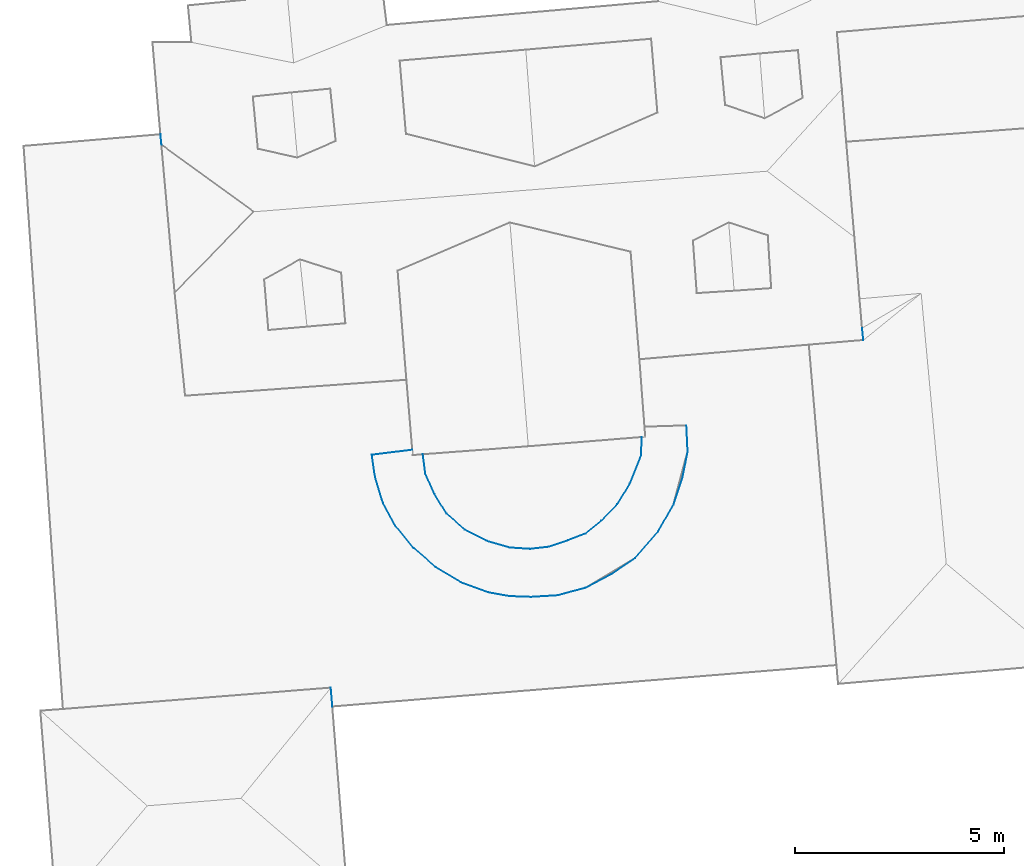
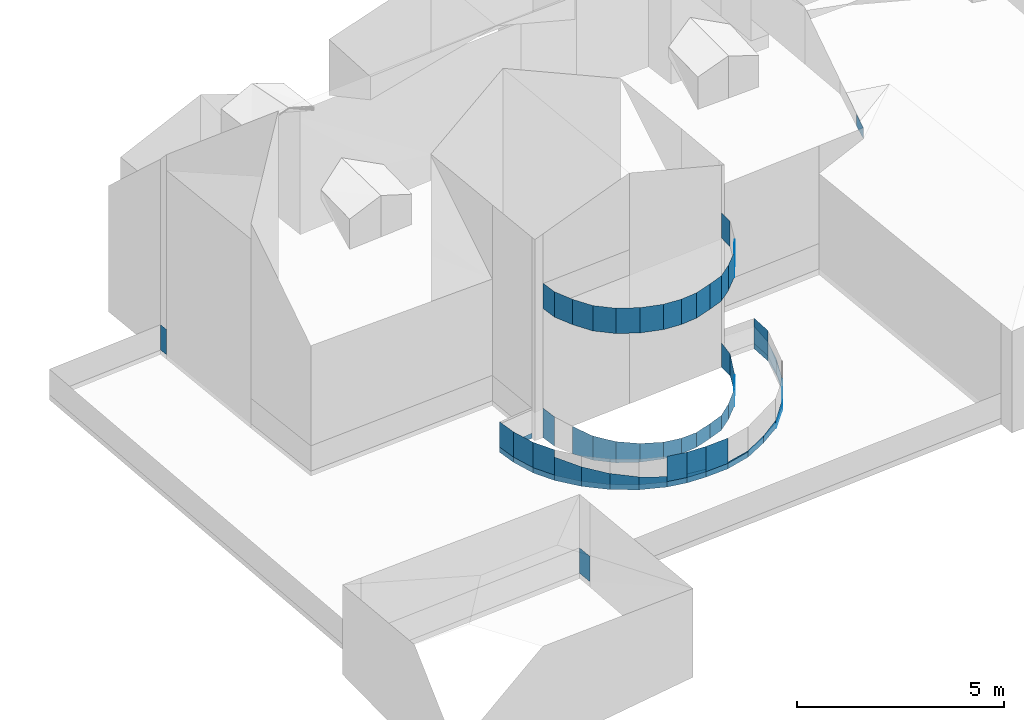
# Not in any storey, part 47 of 57: 93 walls.
"""IFC2X3 building model written with IfcOpenShell, lengths in metres."""

import ifcopenshell
import ifcopenshell.guid

model = None  # the IFC model being written
_history = None  # IfcOwnerHistory: only IFC2X3 demands one
_inside = {}  # id of a spatial element -> (the spatial element, [elements in it])
_under = {}  # id of a project, library or spatial element -> (it, [spatial elements below it])
_declared = {}  # id of a project -> (the project, [libraries it declares])
_typed = {}  # id of a type object -> (the type object, [elements of that type])
_made_of = {}  # id of a material, layer set ... -> (it, [elements and type objects made of it])


def new_model(schema):
    """Start an empty IFC model of exactly this schema.

    Asked for "IFC4X3", IfcOpenShell would pick the latest addendum, in which some entities
    have other attributes; the version numbers below select the first issue.
    IFC2X3 requires an IfcOwnerHistory on every rooted entity: one is made here for all.
    """
    global model, _history
    if schema == "IFC4X3":
        model = ifcopenshell.file(schema_version=(4, 3, 0, 0))
    else:
        model = ifcopenshell.file(schema=schema)
    _inside.clear()
    _under.clear()
    _declared.clear()
    _typed.clear()
    _made_of.clear()
    _history = None
    if model.schema == "IFC2X3":
        org = make("IfcOrganization", Name="unknown")
        user = make(
            "IfcPersonAndOrganization",
            ThePerson=make("IfcPerson", FamilyName="unknown"),
            TheOrganization=org,
        )
        app = make(
            "IfcApplication",
            ApplicationDeveloper=org,
            Version="unknown",
            ApplicationFullName="unknown",
            ApplicationIdentifier="unknown",
        )
        _history = make(
            "IfcOwnerHistory",
            OwningUser=user,
            OwningApplication=app,
            ChangeAction="ADDED",
            CreationDate=0,
        )
    return model


def make(cls, **values):
    """One entity of the class cls with the attributes given. An attribute that is None is left unset."""
    return model.create_entity(
        cls, **{name: value for name, value in values.items() if value is not None}
    )


def entity(cls, *values):
    """Any entity or typed value of the class cls, its attributes in the order of the schema. None: left unset."""
    e = model.create_entity(cls)
    for i, value in enumerate(values):
        if value is not None:
            e[i] = value
    return e


def rooted(cls, **values):
    """An entity with a GlobalId (a new one), such as an element, a storey or a relation."""
    return make(cls, GlobalId=ifcopenshell.guid.new(), OwnerHistory=_history, **values)


def si_unit(unit_type, name, prefix=None):
    """IfcSIUnit, for example si_unit("LENGTHUNIT", "METRE", prefix="MILLI")."""
    return make("IfcSIUnit", UnitType=unit_type, Prefix=prefix, Name=name)


def converted_unit(unit_type, name, factor, base, dimensions=None, offset=None):
    """IfcConversionBasedUnit, such as the inch: factor (a typed value) times the base unit."""
    return make(
        "IfcConversionBasedUnit"
        if offset is None
        else "IfcConversionBasedUnitWithOffset",
        ConversionOffset=offset,
        Dimensions=None
        if dimensions is None
        else entity("IfcDimensionalExponents", *dimensions),
        UnitType=unit_type,
        Name=name,
        ConversionFactor=make(
            "IfcMeasureWithUnit", ValueComponent=factor, UnitComponent=base
        ),
    )


def assignment(units):
    """IfcUnitAssignment: the units of a project."""
    return None if units is None else make("IfcUnitAssignment", Units=units)


def point(xyz):
    """IfcCartesianPoint."""
    return None if xyz is None else make("IfcCartesianPoint", Coordinates=xyz)


def direction(xyz):
    """IfcDirection."""
    return None if xyz is None else make("IfcDirection", DirectionRatios=xyz)


def frame(location, z_axis=None, x_axis=None):
    """IfcAxis2Placement3D, a coordinate frame: its origin and axes. An axis left out is left unset."""
    return make(
        "IfcAxis2Placement3D",
        Location=point(location),
        Axis=direction(z_axis),
        RefDirection=direction(x_axis),
    )


def origin():
    """The frame at (0, 0, 0) with its axes left unset."""
    return frame((0.0, 0.0, 0.0))


def place(relative_to, where):
    """IfcLocalPlacement: puts the frame where relative to a parent placement (None: the world)."""
    return make(
        "IfcLocalPlacement", PlacementRelTo=relative_to, RelativePlacement=where
    )


def context(
    kind, dimensions, precision=None, world=None, true_north=None, identifier=None
):
    """IfcGeometricRepresentationContext, for example the 3D "Model" context."""
    return make(
        "IfcGeometricRepresentationContext",
        ContextIdentifier=identifier,
        ContextType=kind,
        CoordinateSpaceDimension=dimensions,
        Precision=precision,
        WorldCoordinateSystem=world,
        TrueNorth=true_north,
    )


def subcontext(parent, identifier, kind, view, scale=None):
    """IfcGeometricRepresentationSubContext, for example "Body" below "Model"."""
    return make(
        "IfcGeometricRepresentationSubContext",
        ContextIdentifier=identifier,
        ContextType=kind,
        ParentContext=parent,
        TargetScale=scale,
        TargetView=view,
    )


def project(units=None, contexts=None):
    """IfcProject with its units and contexts."""
    return rooted(
        "IfcProject",
        Name="project",
        RepresentationContexts=contexts,
        UnitsInContext=assignment(units),
    )


def spatial(cls, under=None, at=None, **own):
    """A site, building, storey or space (cls), placed at a placement, below another one or the project."""
    s = rooted(cls, ObjectPlacement=at, **own)
    if under is not None:
        _under.setdefault(under.id(), (under, []))[1].append(s)
    return s


def faces_of(points, faces, orient=None, outer=None):
    """IfcFace entities. A face is a list of loops; a loop is a list of indices into points, from 0.

    orient and outer hold one flag for each loop. By default every Orientation is true, the
    first loop of a face is its IfcFaceOuterBound and the others are IfcFaceBound.
    """
    made = []
    for i, loops in enumerate(faces):
        bounds = []
        for j, loop in enumerate(loops):
            is_outer = j == 0 if outer is None else outer[i][j]
            bounds.append(
                make(
                    "IfcFaceOuterBound" if is_outer else "IfcFaceBound",
                    Bound=make("IfcPolyLoop", Polygon=[points[k] for k in loop]),
                    Orientation=True if orient is None else orient[i][j],
                )
            )
        made.append(make("IfcFace", Bounds=bounds))
    return made


def face_set(faces, orient=None, outer=None):
    """The faces of one IfcConnectedFaceSet. surface_model builds it on its shared points."""
    return ("IfcConnectedFaceSet", faces, orient, outer)


def surface_model(cls, points, shells):
    """IfcFaceBasedSurfaceModel or IfcShellBasedSurfaceModel (cls): surfaces that need not close."""
    shared = [point(p) for p in points]
    made = [make(c, CfsFaces=faces_of(shared, fs, o, b)) for c, fs, o, b in shells]
    if cls == "IfcFaceBasedSurfaceModel":
        return make(cls, FbsmFaces=made)
    return make(cls, SbsmBoundary=made)


def shape(context_of_items, identifier, shape_type, items):
    """IfcShapeRepresentation: the items that make up one representation, for example the "Body"."""
    return make(
        "IfcShapeRepresentation",
        ContextOfItems=context_of_items,
        RepresentationIdentifier=identifier,
        RepresentationType=shape_type,
        Items=items,
    )


def made_of(thing, what):
    """Note that an element or type object is made of a material, layer set ...; save() writes the relation."""
    if what is not None:
        _made_of.setdefault(what.id(), (what, []))[1].append(thing)
    return thing


def element(
    cls,
    number,
    at=None,
    inside=None,
    cuts=None,
    type_object=None,
    material=None,
    context=None,
    identifier="Body",
    shape_type=None,
    held_by="IfcProductDefinitionShape",
    body=None,
    shapes=None,
    **own,
):
    """One element of the class cls, such as IfcWall. Its Tag is "e" and its number.

    at: its placement. inside: the storey or other place that contains it. cuts: it is an
    opening in that element (IfcRelVoidsElement). A single representation is given by context,
    identifier, shape_type and body (its items); several are given by shapes. held_by: the class
    of the entity that holds the representations. save() writes the other relations.
    """
    e = rooted(cls, Tag="e%d" % number, ObjectPlacement=at, **own)
    if body is not None:
        shapes = [shape(context, identifier, shape_type, body)]
    if shapes is not None:
        e.Representation = make(held_by, Representations=shapes)
    if inside is not None:
        _inside.setdefault(inside.id(), (inside, []))[1].append(e)
    if cuts is not None:
        rooted(
            "IfcRelVoidsElement", RelatingBuildingElement=cuts, RelatedOpeningElement=e
        )
    if type_object is not None:
        _typed.setdefault(type_object.id(), (type_object, []))[1].append(e)
    return made_of(e, material)


def aggregate(whole, parts):
    """IfcRelAggregates: a whole, such as a stair, and the parts it consists of."""
    return rooted("IfcRelAggregates", RelatingObject=whole, RelatedObjects=parts)


def save(model, path):
    """Write the relations noted so far, then the file.

    IfcRelAggregates (storeys below a building ...), IfcRelContainedInSpatialStructure (elements
    in a storey), IfcRelDefinesByType, IfcRelAssociatesMaterial and IfcRelDeclares: one each for
    every whole, place, type object, material and project.
    """
    for whole, parts in _under.values():
        aggregate(whole, parts)
    for where, things in _inside.values():
        rooted(
            "IfcRelContainedInSpatialStructure",
            RelatedElements=things,
            RelatingStructure=where,
        )
    for kind, things in _typed.values():
        rooted("IfcRelDefinesByType", RelatedObjects=things, RelatingType=kind)
    for what, things in _made_of.values():
        rooted("IfcRelAssociatesMaterial", RelatedObjects=things, RelatingMaterial=what)
    for by, libraries in _declared.values():
        rooted("IfcRelDeclares", RelatingContext=by, RelatedDefinitions=libraries)
    model.write(path)


model = new_model("IFC2X3")

# Units and contexts
model_context = context("Model", 3, precision=1e-05, world=origin())
body_context = subcontext(model_context, "Body", "Model", "MODEL_VIEW")
ifc_project = project(units=[converted_unit("PLANEANGLEUNIT", "DEGREE", entity("IfcRatioMeasure", 0.0174532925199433), si_unit("PLANEANGLEUNIT", "RADIAN"), dimensions=[0, 0, 0, 0, 0, 0, 0]), si_unit("AREAUNIT", "SQUARE_METRE"), si_unit("LENGTHUNIT", "METRE")], contexts=[model_context])

# Site, building
site_placement = place(None, origin())
site = spatial("IfcSite", under=ifc_project, at=site_placement, Name="_site", CompositionType="ELEMENT")
building_1_placement = place(site_placement, origin())
building_1 = spatial("IfcBuilding", under=site, at=building_1_placement, Name="_building", CompositionType="ELEMENT")

# Walls
for number, where, name in (
    (1, (0.0, 0.0, 0.0), "Wall"),
    (2, (0.0, 0.0, 0.0), "Wall"),
):
    element("IfcWall", number, at=place(building_1_placement, frame(where)), inside=building_1, Name=name, context=body_context, shape_type="SurfaceModel", body=[
        surface_model("IfcFaceBasedSurfaceModel", [(233.188, 86.01, 226.165), (233.15, 86.461, 226.165), (233.15, 86.461, 226.915), (233.188, 86.01, 226.915)], [face_set([[[0, 1, 2, 3]]])]),
    ])

# Building
building_2_placement = place(site_placement, origin())
building_2 = spatial("IfcBuilding", under=site, at=building_2_placement, Name="_building", CompositionType="ELEMENT")

# Walls
wall_1_placement = place(building_2_placement, origin())
element("IfcWall", 3, at=wall_1_placement, inside=building_2, Name="Wall", context=body_context, shape_type="SurfaceModel", body=[
    surface_model("IfcFaceBasedSurfaceModel", [(235.41, 91.58, 229.832), (235.35, 92.039, 229.832), (235.35, 92.039, 230.582), (235.41, 91.58, 230.582)], [face_set([[[0, 1, 2, 3]]])]),
])
wall_2_placement = place(building_2_placement, origin())
element("IfcWall", 4, at=wall_2_placement, inside=building_2, Name="Wall", context=body_context, shape_type="SurfaceModel", body=[
    surface_model("IfcFaceBasedSurfaceModel", [(235.63, 91.09, 229.832), (235.41, 91.58, 229.832), (235.41, 91.58, 230.582), (235.63, 91.09, 230.582)], [face_set([[[0, 1, 2, 3]]])]),
])
wall_3_placement = place(building_2_placement, origin())
element("IfcWall", 5, at=wall_3_placement, inside=building_2, Name="Wall", context=body_context, shape_type="SurfaceModel", body=[
    surface_model("IfcFaceBasedSurfaceModel", [(235.92, 90.619, 229.832), (235.63, 91.09, 229.832), (235.63, 91.09, 230.582), (235.92, 90.619, 230.582)], [face_set([[[0, 1, 2, 3]]])]),
])
wall_4_placement = place(building_2_placement, origin())
element("IfcWall", 6, at=wall_4_placement, inside=building_2, Name="Wall", context=body_context, shape_type="SurfaceModel", body=[
    surface_model("IfcFaceBasedSurfaceModel", [(236.35, 90.24, 229.832), (235.92, 90.619, 229.832), (235.92, 90.619, 230.582), (236.35, 90.24, 230.582)], [face_set([[[0, 1, 2, 3]]])]),
])
wall_5_placement = place(building_2_placement, origin())
element("IfcWall", 7, at=wall_5_placement, inside=building_2, Name="Wall", context=body_context, shape_type="SurfaceModel", body=[
    surface_model("IfcFaceBasedSurfaceModel", [(236.87, 89.971, 229.832), (236.35, 90.24, 229.832), (236.35, 90.24, 230.582), (236.87, 89.971, 230.582)], [face_set([[[0, 1, 2, 3]]])]),
])
wall_6_placement = place(building_2_placement, origin())
element("IfcWall", 8, at=wall_6_placement, inside=building_2, Name="Wall", context=body_context, shape_type="SurfaceModel", body=[
    surface_model("IfcFaceBasedSurfaceModel", [(237.43, 89.811, 229.832), (236.87, 89.971, 229.832), (236.87, 89.971, 230.582), (237.43, 89.811, 230.582)], [face_set([[[0, 1, 2, 3]]])]),
])
wall_7_placement = place(building_2_placement, origin())
element("IfcWall", 9, at=wall_7_placement, inside=building_2, Name="Wall", context=body_context, shape_type="SurfaceModel", body=[
    surface_model("IfcFaceBasedSurfaceModel", [(237.91, 89.779, 229.832), (237.43, 89.811, 229.832), (237.43, 89.811, 230.582), (237.91, 89.779, 230.582)], [face_set([[[0, 1, 2, 3]]])]),
])
wall_8_placement = place(building_2_placement, origin())
element("IfcWall", 10, at=wall_8_placement, inside=building_2, Name="Wall", context=body_context, shape_type="SurfaceModel", body=[
    surface_model("IfcFaceBasedSurfaceModel", [(238.36, 89.83, 229.832), (237.91, 89.779, 229.832), (237.91, 89.779, 230.582), (238.36, 89.83, 230.582)], [face_set([[[0, 1, 2, 3]]])]),
])
wall_9_placement = place(building_2_placement, origin())
element("IfcWall", 11, at=wall_9_placement, inside=building_2, Name="Wall", context=body_context, shape_type="SurfaceModel", body=[
    surface_model("IfcFaceBasedSurfaceModel", [(238.83, 89.99, 229.832), (238.36, 89.83, 229.832), (238.36, 89.83, 230.582), (238.83, 89.99, 230.582)], [face_set([[[0, 1, 2, 3]]])]),
])
wall_10_placement = place(building_2_placement, origin())
element("IfcWall", 12, at=wall_10_placement, inside=building_2, Name="Wall", context=body_context, shape_type="SurfaceModel", body=[
    surface_model("IfcFaceBasedSurfaceModel", [(239.24, 90.15, 229.832), (238.83, 89.99, 229.832), (238.83, 89.99, 230.582), (239.24, 90.15, 230.582)], [face_set([[[0, 1, 2, 3]]])]),
])
wall_11_placement = place(building_2_placement, origin())
element("IfcWall", 13, at=wall_11_placement, inside=building_2, Name="Wall", context=body_context, shape_type="SurfaceModel", body=[
    surface_model("IfcFaceBasedSurfaceModel", [(239.61, 90.449, 229.832), (239.24, 90.15, 229.832), (239.24, 90.15, 230.582), (239.61, 90.449, 230.582)], [face_set([[[0, 1, 2, 3]]])]),
])
wall_12_placement = place(building_2_placement, origin())
element("IfcWall", 14, at=wall_12_placement, inside=building_2, Name="Wall", context=body_context, shape_type="SurfaceModel", body=[
    surface_model("IfcFaceBasedSurfaceModel", [(240.0, 90.85, 229.832), (239.61, 90.449, 229.832), (239.61, 90.449, 230.582), (240.0, 90.85, 230.582)], [face_set([[[0, 1, 2, 3]]])]),
])
wall_13_placement = place(building_2_placement, origin())
element("IfcWall", 15, at=wall_13_placement, inside=building_2, Name="Wall", context=body_context, shape_type="SurfaceModel", body=[
    surface_model("IfcFaceBasedSurfaceModel", [(240.3, 91.34, 229.832), (240.0, 90.85, 229.832), (240.0, 90.85, 230.582), (240.3, 91.34, 230.582)], [face_set([[[0, 1, 2, 3]]])]),
])
wall_14_placement = place(building_2_placement, origin())
element("IfcWall", 16, at=wall_14_placement, inside=building_2, Name="Wall", context=body_context, shape_type="SurfaceModel", body=[
    surface_model("IfcFaceBasedSurfaceModel", [(240.58, 92.451, 229.832), (240.57, 92.02, 229.832), (240.57, 92.02, 230.582), (240.58, 92.451, 230.582)], [face_set([[[0, 1, 2, 3]]])]),
])
wall_15_placement = place(building_2_placement, origin())
element("IfcWall", 17, at=wall_15_placement, inside=building_2, Name="Wall", context=body_context, shape_type="SurfaceModel", body=[
    surface_model("IfcFaceBasedSurfaceModel", [(235.41, 91.58, 229.832), (235.35, 92.039, 229.832), (235.35, 92.039, 230.582), (235.41, 91.58, 230.582)], [face_set([[[0, 1, 2, 3]]])]),
])
wall_16_placement = place(building_2_placement, origin())
element("IfcWall", 18, at=wall_16_placement, inside=building_2, Name="Wall", context=body_context, shape_type="SurfaceModel", body=[
    surface_model("IfcFaceBasedSurfaceModel", [(235.63, 91.09, 229.832), (235.41, 91.58, 229.832), (235.41, 91.58, 230.582), (235.63, 91.09, 230.582)], [face_set([[[0, 1, 2, 3]]])]),
])
wall_17_placement = place(building_2_placement, origin())
element("IfcWall", 19, at=wall_17_placement, inside=building_2, Name="Wall", context=body_context, shape_type="SurfaceModel", body=[
    surface_model("IfcFaceBasedSurfaceModel", [(235.92, 90.619, 229.832), (235.63, 91.09, 229.832), (235.63, 91.09, 230.582), (235.92, 90.619, 230.582)], [face_set([[[0, 1, 2, 3]]])]),
])
wall_18_placement = place(building_2_placement, origin())
element("IfcWall", 20, at=wall_18_placement, inside=building_2, Name="Wall", context=body_context, shape_type="SurfaceModel", body=[
    surface_model("IfcFaceBasedSurfaceModel", [(236.35, 90.24, 229.832), (235.92, 90.619, 229.832), (235.92, 90.619, 230.582), (236.35, 90.24, 230.582)], [face_set([[[0, 1, 2, 3]]])]),
])
wall_19_placement = place(building_2_placement, origin())
element("IfcWall", 21, at=wall_19_placement, inside=building_2, Name="Wall", context=body_context, shape_type="SurfaceModel", body=[
    surface_model("IfcFaceBasedSurfaceModel", [(236.87, 89.971, 229.832), (236.35, 90.24, 229.832), (236.35, 90.24, 230.582), (236.87, 89.971, 230.582)], [face_set([[[0, 1, 2, 3]]])]),
])
wall_20_placement = place(building_2_placement, origin())
element("IfcWall", 22, at=wall_20_placement, inside=building_2, Name="Wall", context=body_context, shape_type="SurfaceModel", body=[
    surface_model("IfcFaceBasedSurfaceModel", [(237.43, 89.811, 229.832), (236.87, 89.971, 229.832), (236.87, 89.971, 230.582), (237.43, 89.811, 230.582)], [face_set([[[0, 1, 2, 3]]])]),
])
wall_21_placement = place(building_2_placement, origin())
element("IfcWall", 23, at=wall_21_placement, inside=building_2, Name="Wall", context=body_context, shape_type="SurfaceModel", body=[
    surface_model("IfcFaceBasedSurfaceModel", [(237.91, 89.779, 229.832), (237.43, 89.811, 229.832), (237.43, 89.811, 230.582), (237.91, 89.779, 230.582)], [face_set([[[0, 1, 2, 3]]])]),
])
wall_22_placement = place(building_2_placement, origin())
element("IfcWall", 24, at=wall_22_placement, inside=building_2, Name="Wall", context=body_context, shape_type="SurfaceModel", body=[
    surface_model("IfcFaceBasedSurfaceModel", [(238.36, 89.83, 229.832), (237.91, 89.779, 229.832), (237.91, 89.779, 230.582), (238.36, 89.83, 230.582)], [face_set([[[0, 1, 2, 3]]])]),
])
wall_23_placement = place(building_2_placement, origin())
element("IfcWall", 25, at=wall_23_placement, inside=building_2, Name="Wall", context=body_context, shape_type="SurfaceModel", body=[
    surface_model("IfcFaceBasedSurfaceModel", [(238.83, 89.99, 229.832), (238.36, 89.83, 229.832), (238.36, 89.83, 230.582), (238.83, 89.99, 230.582)], [face_set([[[0, 1, 2, 3]]])]),
])
wall_24_placement = place(building_2_placement, origin())
element("IfcWall", 26, at=wall_24_placement, inside=building_2, Name="Wall", context=body_context, shape_type="SurfaceModel", body=[
    surface_model("IfcFaceBasedSurfaceModel", [(239.24, 90.15, 229.832), (238.83, 89.99, 229.832), (238.83, 89.99, 230.582), (239.24, 90.15, 230.582)], [face_set([[[0, 1, 2, 3]]])]),
])
wall_25_placement = place(building_2_placement, origin())
element("IfcWall", 27, at=wall_25_placement, inside=building_2, Name="Wall", context=body_context, shape_type="SurfaceModel", body=[
    surface_model("IfcFaceBasedSurfaceModel", [(239.61, 90.449, 229.832), (239.24, 90.15, 229.832), (239.24, 90.15, 230.582), (239.61, 90.449, 230.582)], [face_set([[[0, 1, 2, 3]]])]),
])
wall_26_placement = place(building_2_placement, origin())
element("IfcWall", 28, at=wall_26_placement, inside=building_2, Name="Wall", context=body_context, shape_type="SurfaceModel", body=[
    surface_model("IfcFaceBasedSurfaceModel", [(240.0, 90.85, 229.832), (239.61, 90.449, 229.832), (239.61, 90.449, 230.582), (240.0, 90.85, 230.582)], [face_set([[[0, 1, 2, 3]]])]),
])
wall_27_placement = place(building_2_placement, origin())
element("IfcWall", 29, at=wall_27_placement, inside=building_2, Name="Wall", context=body_context, shape_type="SurfaceModel", body=[
    surface_model("IfcFaceBasedSurfaceModel", [(240.3, 91.34, 229.832), (240.0, 90.85, 229.832), (240.0, 90.85, 230.582), (240.3, 91.34, 230.582)], [face_set([[[0, 1, 2, 3]]])]),
])
wall_28_placement = place(building_2_placement, origin())
element("IfcWall", 30, at=wall_28_placement, inside=building_2, Name="Wall", context=body_context, shape_type="SurfaceModel", body=[
    surface_model("IfcFaceBasedSurfaceModel", [(240.58, 92.451, 229.832), (240.57, 92.02, 229.832), (240.57, 92.02, 230.582), (240.58, 92.451, 230.582)], [face_set([[[0, 1, 2, 3]]])]),
])
wall_29_placement = place(building_2_placement, origin())
element("IfcWall", 31, at=wall_29_placement, inside=building_2, Name="Wall", context=body_context, shape_type="SurfaceModel", body=[
    surface_model("IfcFaceBasedSurfaceModel", [(245.85, 95.061, 230.08), (245.88, 94.77, 229.83), (245.88, 94.77, 229.5), (245.85, 95.061, 229.72)], [face_set([[[0, 1, 2, 3]]])]),
])
wall_30_placement = place(building_2_placement, origin())
element("IfcWall", 32, at=wall_30_placement, inside=building_2, Name="Wall", context=body_context, shape_type="SurfaceModel", body=[
    surface_model("IfcFaceBasedSurfaceModel", [(234.21, 91.49, 226.17), (234.13, 92.029, 226.17), (234.13, 92.029, 226.92), (234.21, 91.49, 226.92)], [face_set([[[0, 1, 2, 3]]])]),
])
wall_31_placement = place(building_2_placement, origin())
element("IfcWall", 33, at=wall_31_placement, inside=building_2, Name="Wall", context=body_context, shape_type="SurfaceModel", body=[
    surface_model("IfcFaceBasedSurfaceModel", [(234.4, 90.869, 226.17), (234.21, 91.49, 226.17), (234.21, 91.49, 226.92), (234.4, 90.869, 226.92)], [face_set([[[0, 1, 2, 3]]])]),
])
wall_32_placement = place(building_2_placement, origin())
element("IfcWall", 34, at=wall_32_placement, inside=building_2, Name="Wall", context=body_context, shape_type="SurfaceModel", body=[
    surface_model("IfcFaceBasedSurfaceModel", [(234.69, 90.34, 226.17), (234.4, 90.869, 226.17), (234.4, 90.869, 226.92), (234.69, 90.34, 226.92)], [face_set([[[0, 1, 2, 3]]])]),
])
wall_33_placement = place(building_2_placement, origin())
element("IfcWall", 35, at=wall_33_placement, inside=building_2, Name="Wall", context=body_context, shape_type="SurfaceModel", body=[
    surface_model("IfcFaceBasedSurfaceModel", [(237.41, 88.65, 226.17), (236.91, 88.74, 226.17), (236.91, 88.74, 226.92), (237.41, 88.65, 226.92)], [face_set([[[0, 1, 2, 3]]])]),
])
wall_34_placement = place(building_2_placement, origin())
element("IfcWall", 36, at=wall_34_placement, inside=building_2, Name="Wall", context=body_context, shape_type="SurfaceModel", body=[
    surface_model("IfcFaceBasedSurfaceModel", [(237.94, 88.631, 226.17), (237.41, 88.65, 226.17), (237.41, 88.65, 226.92), (237.94, 88.631, 226.92)], [face_set([[[0, 1, 2, 3]]])]),
])
wall_35_placement = place(building_2_placement, origin())
element("IfcWall", 37, at=wall_35_placement, inside=building_2, Name="Wall", context=body_context, shape_type="SurfaceModel", body=[
    surface_model("IfcFaceBasedSurfaceModel", [(238.57, 88.67, 226.17), (237.94, 88.631, 226.17), (237.94, 88.631, 226.92), (238.57, 88.67, 226.92)], [face_set([[[0, 1, 2, 3]]])]),
])
wall_36_placement = place(building_2_placement, origin())
element("IfcWall", 38, at=wall_36_placement, inside=building_2, Name="Wall", context=body_context, shape_type="SurfaceModel", body=[
    surface_model("IfcFaceBasedSurfaceModel", [(241.65, 92.73, 226.17), (241.68, 92.109, 226.17), (241.68, 92.109, 226.92), (241.65, 92.73, 226.92)], [face_set([[[0, 1, 2, 3]]])]),
])
wall_37_placement = place(building_2_placement, origin())
element("IfcWall", 39, at=wall_37_placement, inside=building_2, Name="Wall", context=body_context, shape_type="SurfaceModel", body=[
    surface_model("IfcFaceBasedSurfaceModel", [(234.21, 91.49, 226.17), (234.13, 92.029, 226.17), (234.13, 92.029, 226.92), (234.21, 91.49, 226.92)], [face_set([[[0, 1, 2, 3]]])]),
])
wall_38_placement = place(building_2_placement, origin())
element("IfcWall", 40, at=wall_38_placement, inside=building_2, Name="Wall", context=body_context, shape_type="SurfaceModel", body=[
    surface_model("IfcFaceBasedSurfaceModel", [(234.4, 90.869, 226.17), (234.21, 91.49, 226.17), (234.21, 91.49, 226.92), (234.4, 90.869, 226.92)], [face_set([[[0, 1, 2, 3]]])]),
])
wall_39_placement = place(building_2_placement, origin())
element("IfcWall", 41, at=wall_39_placement, inside=building_2, Name="Wall", context=body_context, shape_type="SurfaceModel", body=[
    surface_model("IfcFaceBasedSurfaceModel", [(234.69, 90.34, 226.17), (234.4, 90.869, 226.17), (234.4, 90.869, 226.92), (234.69, 90.34, 226.92)], [face_set([[[0, 1, 2, 3]]])]),
])
wall_40_placement = place(building_2_placement, origin())
element("IfcWall", 42, at=wall_40_placement, inside=building_2, Name="Wall", context=body_context, shape_type="SurfaceModel", body=[
    surface_model("IfcFaceBasedSurfaceModel", [(237.41, 88.65, 226.17), (236.91, 88.74, 226.17), (236.91, 88.74, 226.92), (237.41, 88.65, 226.92)], [face_set([[[0, 1, 2, 3]]])]),
])
wall_41_placement = place(building_2_placement, origin())
element("IfcWall", 43, at=wall_41_placement, inside=building_2, Name="Wall", context=body_context, shape_type="SurfaceModel", body=[
    surface_model("IfcFaceBasedSurfaceModel", [(237.94, 88.631, 226.17), (237.41, 88.65, 226.17), (237.41, 88.65, 226.92), (237.94, 88.631, 226.92)], [face_set([[[0, 1, 2, 3]]])]),
])
wall_42_placement = place(building_2_placement, origin())
element("IfcWall", 44, at=wall_42_placement, inside=building_2, Name="Wall", context=body_context, shape_type="SurfaceModel", body=[
    surface_model("IfcFaceBasedSurfaceModel", [(238.57, 88.67, 226.17), (237.94, 88.631, 226.17), (237.94, 88.631, 226.92), (238.57, 88.67, 226.92)], [face_set([[[0, 1, 2, 3]]])]),
])
wall_43_placement = place(building_2_placement, origin())
element("IfcWall", 45, at=wall_43_placement, inside=building_2, Name="Wall", context=body_context, shape_type="SurfaceModel", body=[
    surface_model("IfcFaceBasedSurfaceModel", [(241.65, 92.73, 226.17), (241.68, 92.109, 226.17), (241.68, 92.109, 226.92), (241.65, 92.73, 226.92)], [face_set([[[0, 1, 2, 3]]])]),
])
for number, where, name in (
    (46, (0.0, 0.0, 0.0), "Wall"),
    (47, (0.0, 0.0, 0.0), "Wall"),
):
    element("IfcWall", number, at=place(building_2_placement, frame(where)), inside=building_2, Name=name, context=body_context, shape_type="SurfaceModel", body=[
        surface_model("IfcFaceBasedSurfaceModel", [(229.102, 99.438, 226.163), (229.079, 99.689, 226.163), (229.079, 99.689, 226.913), (229.102, 99.438, 226.913)], [face_set([[[0, 1, 2, 3]]])]),
    ])
wall_44_placement = place(building_2_placement, origin())
element("IfcWall", 48, at=wall_44_placement, inside=building_2, Name="Wall", context=body_context, shape_type="SurfaceModel", body=[
    surface_model("IfcFaceBasedSurfaceModel", [(235.35, 92.039, 226.89), (235.41, 91.58, 226.885), (235.41, 91.58, 226.016), (235.35, 92.039, 226.017)], [face_set([[[0, 1, 2, 3]]])]),
])
wall_45_placement = place(building_2_placement, origin())
element("IfcWall", 49, at=wall_45_placement, inside=building_2, Name="Wall", context=body_context, shape_type="SurfaceModel", body=[
    surface_model("IfcFaceBasedSurfaceModel", [(234.21, 91.49, 226.847), (234.13, 92.029, 226.852), (234.13, 92.029, 226.017), (234.21, 91.49, 226.016)], [face_set([[[0, 1, 2, 3]]])]),
])
wall_46_placement = place(building_2_placement, origin())
element("IfcWall", 50, at=wall_46_placement, inside=building_2, Name="Wall", context=body_context, shape_type="SurfaceModel", body=[
    surface_model("IfcFaceBasedSurfaceModel", [(235.63, 91.09, 226.825), (235.92, 90.619, 226.728), (235.92, 90.619, 226.014), (235.63, 91.09, 226.015)], [face_set([[[0, 1, 2, 3]]])]),
])
wall_47_placement = place(building_2_placement, origin())
element("IfcWall", 51, at=wall_47_placement, inside=building_2, Name="Wall", context=body_context, shape_type="SurfaceModel", body=[
    surface_model("IfcFaceBasedSurfaceModel", [(234.69, 90.34, 226.706), (234.4, 90.869, 226.81), (234.4, 90.869, 226.014), (234.69, 90.34, 226.013)], [face_set([[[0, 1, 2, 3]]])]),
])
wall_48_placement = place(building_2_placement, origin())
element("IfcWall", 52, at=wall_48_placement, inside=building_2, Name="Wall", context=body_context, shape_type="SurfaceModel", body=[
    surface_model("IfcFaceBasedSurfaceModel", [(240.57, 92.02, 226.666), (240.58, 92.451, 226.73), (240.58, 92.451, 226.017), (240.57, 92.02, 226.017)], [face_set([[[0, 1, 2, 3]]])]),
])
wall_49_placement = place(building_2_placement, origin())
element("IfcWall", 53, at=wall_49_placement, inside=building_2, Name="Wall", context=body_context, shape_type="SurfaceModel", body=[
    surface_model("IfcFaceBasedSurfaceModel", [(235.92, 90.619, 226.728), (236.35, 90.24, 226.64), (236.35, 90.24, 226.014), (235.92, 90.619, 226.014)], [face_set([[[0, 1, 2, 3]]])]),
])
wall_50_placement = place(building_2_placement, origin())
element("IfcWall", 54, at=wall_50_placement, inside=building_2, Name="Wall", context=body_context, shape_type="SurfaceModel", body=[
    surface_model("IfcFaceBasedSurfaceModel", [(235.13, 89.801, 226.592), (234.69, 90.34, 226.706), (234.69, 90.34, 226.013), (235.13, 89.801, 226.012)], [face_set([[[0, 1, 2, 3]]])]),
])
wall_51_placement = place(building_2_placement, origin())
element("IfcWall", 55, at=wall_51_placement, inside=building_2, Name="Wall", context=body_context, shape_type="SurfaceModel", body=[
    surface_model("IfcFaceBasedSurfaceModel", [(241.65, 92.73, 226.676), (241.68, 92.109, 226.58), (241.68, 92.109, 226.016), (241.65, 92.73, 226.016)], [face_set([[[0, 1, 2, 3]]])]),
])
wall_52_placement = place(building_2_placement, origin())
element("IfcWall", 56, at=wall_52_placement, inside=building_2, Name="Wall", context=body_context, shape_type="SurfaceModel", body=[
    surface_model("IfcFaceBasedSurfaceModel", [(240.3, 91.34, 226.577), (240.57, 92.02, 226.666), (240.57, 92.02, 226.017), (240.3, 91.34, 226.016)], [face_set([[[0, 1, 2, 3]]])]),
])
wall_53_placement = place(building_2_placement, origin())
element("IfcWall", 57, at=wall_53_placement, inside=building_2, Name="Wall", context=body_context, shape_type="SurfaceModel", body=[
    surface_model("IfcFaceBasedSurfaceModel", [(236.35, 90.24, 226.64), (236.87, 89.971, 226.565), (236.87, 89.971, 226.013), (236.35, 90.24, 226.014)], [face_set([[[0, 1, 2, 3]]])]),
])
wall_54_placement = place(building_2_placement, origin())
element("IfcWall", 58, at=wall_54_placement, inside=building_2, Name="Wall", context=body_context, shape_type="SurfaceModel", body=[
    surface_model("IfcFaceBasedSurfaceModel", [(235.66, 89.34, 226.486), (235.13, 89.801, 226.592), (235.13, 89.801, 226.012), (235.66, 89.34, 226.011)], [face_set([[[0, 1, 2, 3]]])]),
])
wall_55_placement = place(building_2_placement, origin())
element("IfcWall", 59, at=wall_55_placement, inside=building_2, Name="Wall", context=body_context, shape_type="SurfaceModel", body=[
    surface_model("IfcFaceBasedSurfaceModel", [(241.68, 92.109, 226.58), (241.56, 91.49, 226.491), (241.56, 91.49, 226.016), (241.68, 92.109, 226.016)], [face_set([[[0, 1, 2, 3]]])]),
])
wall_56_placement = place(building_2_placement, origin())
element("IfcWall", 60, at=wall_56_placement, inside=building_2, Name="Wall", context=body_context, shape_type="SurfaceModel", body=[
    surface_model("IfcFaceBasedSurfaceModel", [(240.0, 90.85, 226.519), (240.3, 91.34, 226.577), (240.3, 91.34, 226.016), (240.0, 90.85, 226.016)], [face_set([[[0, 1, 2, 3]]])]),
])
wall_57_placement = place(building_2_placement, origin())
element("IfcWall", 61, at=wall_57_placement, inside=building_2, Name="Wall", context=body_context, shape_type="SurfaceModel", body=[
    surface_model("IfcFaceBasedSurfaceModel", [(236.87, 89.971, 226.565), (237.43, 89.811, 226.506), (237.43, 89.811, 226.013), (236.87, 89.971, 226.013)], [face_set([[[0, 1, 2, 3]]])]),
])
wall_58_placement = place(building_2_placement, origin())
element("IfcWall", 62, at=wall_58_placement, inside=building_2, Name="Wall", context=body_context, shape_type="SurfaceModel", body=[
    surface_model("IfcFaceBasedSurfaceModel", [(239.61, 90.449, 226.479), (240.0, 90.85, 226.519), (240.0, 90.85, 226.016), (239.61, 90.449, 226.015)], [face_set([[[0, 1, 2, 3]]])]),
])
wall_59_placement = place(building_2_placement, origin())
element("IfcWall", 63, at=wall_59_placement, inside=building_2, Name="Wall", context=body_context, shape_type="SurfaceModel", body=[
    surface_model("IfcFaceBasedSurfaceModel", [(237.43, 89.811, 226.506), (237.91, 89.779, 226.473), (237.91, 89.779, 226.013), (237.43, 89.811, 226.013)], [face_set([[[0, 1, 2, 3]]])]),
])
wall_60_placement = place(building_2_placement, origin())
element("IfcWall", 64, at=wall_60_placement, inside=building_2, Name="Wall", context=body_context, shape_type="SurfaceModel", body=[
    surface_model("IfcFaceBasedSurfaceModel", [(241.56, 91.49, 226.491), (241.34, 90.84, 226.402), (241.34, 90.84, 226.015), (241.56, 91.49, 226.016)], [face_set([[[0, 1, 2, 3]]])]),
])
wall_61_placement = place(building_2_placement, origin())
element("IfcWall", 65, at=wall_61_placement, inside=building_2, Name="Wall", context=body_context, shape_type="SurfaceModel", body=[
    surface_model("IfcFaceBasedSurfaceModel", [(236.26, 88.98, 226.394), (235.66, 89.34, 226.486), (235.66, 89.34, 226.011), (236.26, 88.98, 226.011)], [face_set([[[0, 1, 2, 3]]])]),
])
wall_62_placement = place(building_2_placement, origin())
element("IfcWall", 66, at=wall_62_placement, inside=building_2, Name="Wall", context=body_context, shape_type="SurfaceModel", body=[
    surface_model("IfcFaceBasedSurfaceModel", [(239.24, 90.15, 226.454), (239.61, 90.449, 226.479), (239.61, 90.449, 226.015), (239.24, 90.15, 226.014)], [face_set([[[0, 1, 2, 3]]])]),
])
wall_63_placement = place(building_2_placement, origin())
element("IfcWall", 67, at=wall_63_placement, inside=building_2, Name="Wall", context=body_context, shape_type="SurfaceModel", body=[
    surface_model("IfcFaceBasedSurfaceModel", [(237.91, 89.779, 226.473), (238.36, 89.83, 226.454), (238.36, 89.83, 226.013), (237.91, 89.779, 226.013)], [face_set([[[0, 1, 2, 3]]])]),
])
wall_64_placement = place(building_2_placement, origin())
element("IfcWall", 68, at=wall_64_placement, inside=building_2, Name="Wall", context=body_context, shape_type="SurfaceModel", body=[
    surface_model("IfcFaceBasedSurfaceModel", [(238.36, 89.83, 226.454), (238.83, 89.99, 226.452), (238.83, 89.99, 226.014), (238.36, 89.83, 226.013)], [face_set([[[0, 1, 2, 3]]])]),
])
wall_65_placement = place(building_2_placement, origin())
element("IfcWall", 69, at=wall_65_placement, inside=building_2, Name="Wall", context=body_context, shape_type="SurfaceModel", body=[
    surface_model("IfcFaceBasedSurfaceModel", [(238.83, 89.99, 226.452), (239.24, 90.15, 226.454), (239.24, 90.15, 226.014), (238.83, 89.99, 226.014)], [face_set([[[0, 1, 2, 3]]])]),
])
wall_66_placement = place(building_2_placement, origin())
element("IfcWall", 70, at=wall_66_placement, inside=building_2, Name="Wall", context=body_context, shape_type="SurfaceModel", body=[
    surface_model("IfcFaceBasedSurfaceModel", [(241.34, 90.84, 226.402), (240.97, 90.189, 226.321), (240.97, 90.189, 226.015), (241.34, 90.84, 226.015)], [face_set([[[0, 1, 2, 3]]])]),
])
wall_67_placement = place(building_2_placement, origin())
element("IfcWall", 71, at=wall_67_placement, inside=building_2, Name="Wall", context=body_context, shape_type="SurfaceModel", body=[
    surface_model("IfcFaceBasedSurfaceModel", [(236.91, 88.74, 226.318), (236.26, 88.98, 226.394), (236.26, 88.98, 226.011), (236.91, 88.74, 226.011)], [face_set([[[0, 1, 2, 3]]])]),
])
wall_68_placement = place(building_2_placement, origin())
element("IfcWall", 72, at=wall_68_placement, inside=building_2, Name="Wall", context=body_context, shape_type="SurfaceModel", body=[
    surface_model("IfcFaceBasedSurfaceModel", [(240.97, 90.189, 226.321), (240.42, 89.561, 226.253), (240.42, 89.561, 226.013), (240.97, 90.189, 226.015)], [face_set([[[0, 1, 2, 3]]])]),
])
wall_69_placement = place(building_2_placement, origin())
element("IfcWall", 73, at=wall_69_placement, inside=building_2, Name="Wall", context=body_context, shape_type="SurfaceModel", body=[
    surface_model("IfcFaceBasedSurfaceModel", [(237.41, 88.65, 226.275), (236.91, 88.74, 226.318), (236.91, 88.74, 226.011), (237.41, 88.65, 226.011)], [face_set([[[0, 1, 2, 3]]])]),
])
wall_70_placement = place(building_2_placement, origin())
element("IfcWall", 74, at=wall_70_placement, inside=building_2, Name="Wall", context=body_context, shape_type="SurfaceModel", body=[
    surface_model("IfcFaceBasedSurfaceModel", [(237.94, 88.631, 226.243), (237.41, 88.65, 226.275), (237.41, 88.65, 226.011), (237.94, 88.631, 226.011)], [face_set([[[0, 1, 2, 3]]])]),
])
wall_71_placement = place(building_2_placement, origin())
element("IfcWall", 75, at=wall_71_placement, inside=building_2, Name="Wall", context=body_context, shape_type="SurfaceModel", body=[
    surface_model("IfcFaceBasedSurfaceModel", [(240.42, 89.561, 226.253), (239.86, 89.18, 226.223), (239.86, 89.18, 226.012), (240.42, 89.561, 226.013)], [face_set([[[0, 1, 2, 3]]])]),
])
wall_72_placement = place(building_2_placement, origin())
element("IfcWall", 76, at=wall_72_placement, inside=building_2, Name="Wall", context=body_context, shape_type="SurfaceModel", body=[
    surface_model("IfcFaceBasedSurfaceModel", [(238.57, 88.67, 226.214), (237.94, 88.631, 226.243), (237.94, 88.631, 226.011), (238.57, 88.67, 226.011)], [face_set([[[0, 1, 2, 3]]])]),
])
wall_73_placement = place(building_2_placement, origin())
element("IfcWall", 77, at=wall_73_placement, inside=building_2, Name="Wall", context=body_context, shape_type="SurfaceModel", body=[
    surface_model("IfcFaceBasedSurfaceModel", [(239.86, 89.18, 226.223), (239.24, 88.85, 226.205), (239.24, 88.85, 226.011), (239.86, 89.18, 226.012)], [face_set([[[0, 1, 2, 3]]])]),
])
wall_74_placement = place(building_2_placement, origin())
element("IfcWall", 78, at=wall_74_placement, inside=building_2, Name="Wall", context=body_context, shape_type="SurfaceModel", body=[
    surface_model("IfcFaceBasedSurfaceModel", [(239.24, 88.85, 226.205), (238.57, 88.67, 226.214), (238.57, 88.67, 226.011), (239.24, 88.85, 226.011)], [face_set([[[0, 1, 2, 3]]])]),
])
wall_75_placement = place(building_2_placement, origin())
element("IfcWall", 79, at=wall_75_placement, inside=building_2, Name="Wall", context=body_context, shape_type="SurfaceModel", body=[
    surface_model("IfcFaceBasedSurfaceModel", [(235.1, 92.15, 226.17), (234.13, 92.029, 226.17), (234.13, 92.029, 226.017), (235.1, 92.15, 226.017)], [face_set([[[0, 1, 2, 3]]])]),
])
wall_76_placement = place(building_2_placement, origin())
element("IfcWall", 80, at=wall_76_placement, inside=building_2, Name="Wall", context=body_context, shape_type="SurfaceModel", body=[
    surface_model("IfcFaceBasedSurfaceModel", [(234.13, 92.029, 226.17), (234.21, 91.49, 226.17), (234.21, 91.49, 226.016), (234.13, 92.029, 226.017)], [face_set([[[0, 1, 2, 3]]])]),
])
wall_77_placement = place(building_2_placement, origin())
element("IfcWall", 81, at=wall_77_placement, inside=building_2, Name="Wall", context=body_context, shape_type="SurfaceModel", body=[
    surface_model("IfcFaceBasedSurfaceModel", [(241.68, 92.109, 226.17), (241.65, 92.73, 226.17), (241.65, 92.73, 226.016), (241.68, 92.109, 226.016)], [face_set([[[0, 1, 2, 3]]])]),
])
wall_78_placement = place(building_2_placement, origin())
element("IfcWall", 82, at=wall_78_placement, inside=building_2, Name="Wall", context=body_context, shape_type="SurfaceModel", body=[
    surface_model("IfcFaceBasedSurfaceModel", [(240.97, 90.189, 226.17), (241.34, 90.84, 226.17), (241.34, 90.84, 226.015), (240.97, 90.189, 226.015)], [face_set([[[0, 1, 2, 3]]])]),
])
wall_79_placement = place(building_2_placement, origin())
element("IfcWall", 83, at=wall_79_placement, inside=building_2, Name="Wall", context=body_context, shape_type="SurfaceModel", body=[
    surface_model("IfcFaceBasedSurfaceModel", [(234.21, 91.49, 226.17), (234.4, 90.869, 226.17), (234.4, 90.869, 226.014), (234.21, 91.49, 226.016)], [face_set([[[0, 1, 2, 3]]])]),
])
wall_80_placement = place(building_2_placement, origin())
element("IfcWall", 84, at=wall_80_placement, inside=building_2, Name="Wall", context=body_context, shape_type="SurfaceModel", body=[
    surface_model("IfcFaceBasedSurfaceModel", [(234.4, 90.869, 226.17), (234.69, 90.34, 226.17), (234.69, 90.34, 226.013), (234.4, 90.869, 226.014)], [face_set([[[0, 1, 2, 3]]])]),
])
wall_81_placement = place(building_2_placement, origin())
element("IfcWall", 85, at=wall_81_placement, inside=building_2, Name="Wall", context=body_context, shape_type="SurfaceModel", body=[
    surface_model("IfcFaceBasedSurfaceModel", [(240.42, 89.561, 226.17), (240.97, 90.189, 226.17), (240.97, 90.189, 226.015), (240.42, 89.561, 226.013)], [face_set([[[0, 1, 2, 3]]])]),
])
wall_82_placement = place(building_2_placement, origin())
element("IfcWall", 86, at=wall_82_placement, inside=building_2, Name="Wall", context=body_context, shape_type="SurfaceModel", body=[
    surface_model("IfcFaceBasedSurfaceModel", [(234.69, 90.34, 226.17), (235.13, 89.801, 226.17), (235.13, 89.801, 226.012), (234.69, 90.34, 226.013)], [face_set([[[0, 1, 2, 3]]])]),
])
wall_83_placement = place(building_2_placement, origin())
element("IfcWall", 87, at=wall_83_placement, inside=building_2, Name="Wall", context=body_context, shape_type="SurfaceModel", body=[
    surface_model("IfcFaceBasedSurfaceModel", [(235.13, 89.801, 226.17), (235.66, 89.34, 226.17), (235.66, 89.34, 226.011), (235.13, 89.801, 226.012)], [face_set([[[0, 1, 2, 3]]])]),
])
wall_84_placement = place(building_2_placement, origin())
element("IfcWall", 88, at=wall_84_placement, inside=building_2, Name="Wall", context=body_context, shape_type="SurfaceModel", body=[
    surface_model("IfcFaceBasedSurfaceModel", [(238.57, 88.67, 226.17), (239.24, 88.85, 226.17), (239.24, 88.85, 226.011), (238.57, 88.67, 226.011)], [face_set([[[0, 1, 2, 3]]])]),
])
wall_85_placement = place(building_2_placement, origin())
element("IfcWall", 89, at=wall_85_placement, inside=building_2, Name="Wall", context=body_context, shape_type="SurfaceModel", body=[
    surface_model("IfcFaceBasedSurfaceModel", [(235.66, 89.34, 226.17), (236.26, 88.98, 226.17), (236.26, 88.98, 226.011), (235.66, 89.34, 226.011)], [face_set([[[0, 1, 2, 3]]])]),
])
wall_86_placement = place(building_2_placement, origin())
element("IfcWall", 90, at=wall_86_placement, inside=building_2, Name="Wall", context=body_context, shape_type="SurfaceModel", body=[
    surface_model("IfcFaceBasedSurfaceModel", [(237.94, 88.631, 226.17), (238.57, 88.67, 226.17), (238.57, 88.67, 226.011), (237.94, 88.631, 226.011)], [face_set([[[0, 1, 2, 3]]])]),
])
wall_87_placement = place(building_2_placement, origin())
element("IfcWall", 91, at=wall_87_placement, inside=building_2, Name="Wall", context=body_context, shape_type="SurfaceModel", body=[
    surface_model("IfcFaceBasedSurfaceModel", [(236.26, 88.98, 226.17), (236.91, 88.74, 226.17), (236.91, 88.74, 226.011), (236.26, 88.98, 226.011)], [face_set([[[0, 1, 2, 3]]])]),
])
wall_88_placement = place(building_2_placement, origin())
element("IfcWall", 92, at=wall_88_placement, inside=building_2, Name="Wall", context=body_context, shape_type="SurfaceModel", body=[
    surface_model("IfcFaceBasedSurfaceModel", [(237.41, 88.65, 226.17), (237.94, 88.631, 226.17), (237.94, 88.631, 226.011), (237.41, 88.65, 226.011)], [face_set([[[0, 1, 2, 3]]])]),
])
wall_89_placement = place(building_2_placement, origin())
element("IfcWall", 93, at=wall_89_placement, inside=building_2, Name="Wall", context=body_context, shape_type="SurfaceModel", body=[
    surface_model("IfcFaceBasedSurfaceModel", [(236.91, 88.74, 226.17), (237.41, 88.65, 226.17), (237.41, 88.65, 226.011), (236.91, 88.74, 226.011)], [face_set([[[0, 1, 2, 3]]])]),
])

save(model, "model.ifc")
